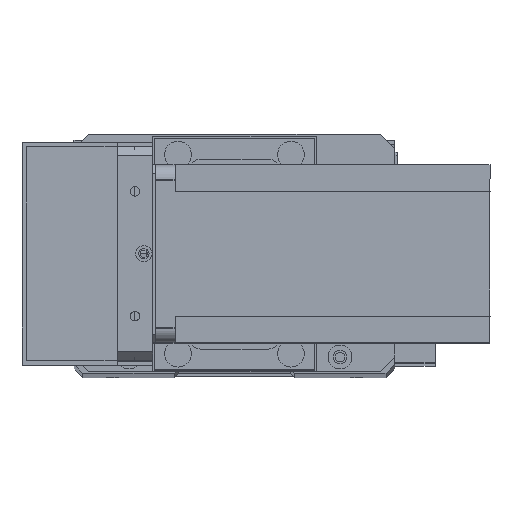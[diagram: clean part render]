
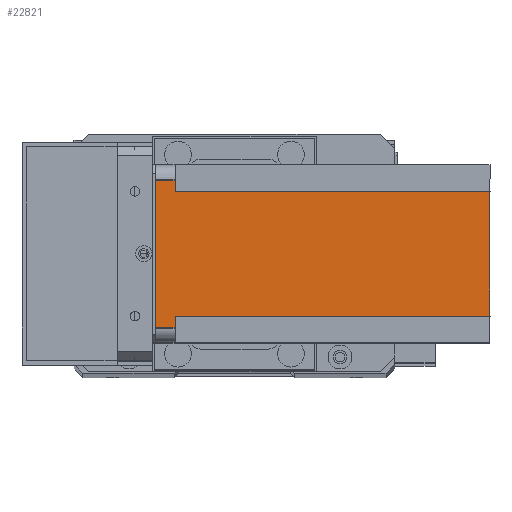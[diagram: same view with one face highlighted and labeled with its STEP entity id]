
A CAD part, top view. The second image highlights one B-rep face of the part: STEP entity #22821.
In plain terms, the highlighted planar face has unit normal (0, 0, 1) as drawn and (1, 0, 0) by its records, which use the part's own axes.
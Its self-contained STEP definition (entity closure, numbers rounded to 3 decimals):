
#467 = FACE_OUTER_BOUND ( 'NONE', #1482, .T. ) ;
#514 = AXIS2_PLACEMENT_3D ( 'NONE', #8757, #29573, #15688 ) ;
#717 = EDGE_CURVE ( 'NONE', #7862, #927, #17634, .T. ) ;
#927 = VERTEX_POINT ( 'NONE', #16353 ) ;
#1322 = LINE ( 'NONE', #12981, #6753 ) ;
#1482 = EDGE_LOOP ( 'NONE', ( #12048, #15155, #25440, #16023, #13905, #7969, #17080, #5695 ) ) ;
#3879 = EDGE_CURVE ( 'NONE', #11777, #14912, #18695, .T. ) ;
#3934 = EDGE_CURVE ( 'NONE', #11777, #18289, #4987, .T. ) ;
#4185 = LINE ( 'NONE', #7992, #16459 ) ;
#4521 = EDGE_CURVE ( 'NONE', #11489, #28545, #1322, .T. ) ;
#4788 = CARTESIAN_POINT ( 'NONE',  ( 60., 5., -6.5 ) ) ;
#4842 = EDGE_CURVE ( 'NONE', #28545, #14912, #4185, .T. ) ;
#4987 = LINE ( 'NONE', #21518, #16520 ) ;
#5695 = ORIENTED_EDGE ( 'NONE', *, *, #4842, .F. ) ;
#6441 = CARTESIAN_POINT ( 'NONE',  ( 60., 5., -112.5 ) ) ;
#6479 = DIRECTION ( 'NONE',  ( 0., 0., 1. ) ) ;
#6753 = VECTOR ( 'NONE', #12817, 1000. ) ;
#7862 = VERTEX_POINT ( 'NONE', #28120 ) ;
#7969 = ORIENTED_EDGE ( 'NONE', *, *, #3934, .F. ) ;
#7992 = CARTESIAN_POINT ( 'NONE',  ( 60., 51., -112.5 ) ) ;
#8091 = DIRECTION ( 'NONE',  ( 0., 0., -1. ) ) ;
#8757 = CARTESIAN_POINT ( 'NONE',  ( 60., 0., -112.5 ) ) ;
#8955 = VERTEX_POINT ( 'NONE', #4788 ) ;
#9200 = CARTESIAN_POINT ( 'NONE',  ( 60., 51., -112.5 ) ) ;
#10143 = EDGE_CURVE ( 'NONE', #18289, #8955, #13428, .T. ) ;
#11082 = DIRECTION ( 'NONE',  ( 0., 0., -1. ) ) ;
#11489 = VERTEX_POINT ( 'NONE', #25852 ) ;
#11777 = VERTEX_POINT ( 'NONE', #22180 ) ;
#12048 = ORIENTED_EDGE ( 'NONE', *, *, #4521, .F. ) ;
#12693 = VECTOR ( 'NONE', #25535, 1000. ) ;
#12817 = DIRECTION ( 'NONE',  ( 0., -1., 0. ) ) ;
#12981 = CARTESIAN_POINT ( 'NONE',  ( 60., 60., -6.5 ) ) ;
#13428 = LINE ( 'NONE', #18520, #12693 ) ;
#13471 = VECTOR ( 'NONE', #6479, 1000. ) ;
#13905 = ORIENTED_EDGE ( 'NONE', *, *, #10143, .F. ) ;
#14912 = VERTEX_POINT ( 'NONE', #9200 ) ;
#15155 = ORIENTED_EDGE ( 'NONE', *, *, #23453, .T. ) ;
#15688 = DIRECTION ( 'NONE',  ( 0., 1., 0. ) ) ;
#16023 = ORIENTED_EDGE ( 'NONE', *, *, #16628, .T. ) ;
#16353 = CARTESIAN_POINT ( 'NONE',  ( 60., 55., 0. ) ) ;
#16459 = VECTOR ( 'NONE', #8091, 1000. ) ;
#16520 = VECTOR ( 'NONE', #21433, 1000. ) ;
#16628 = EDGE_CURVE ( 'NONE', #7862, #8955, #22337, .T. ) ;
#17080 = ORIENTED_EDGE ( 'NONE', *, *, #3879, .T. ) ;
#17388 = CARTESIAN_POINT ( 'NONE',  ( 60., 51., -6.5 ) ) ;
#17634 = LINE ( 'NONE', #21237, #29990 ) ;
#18289 = VERTEX_POINT ( 'NONE', #26212 ) ;
#18520 = CARTESIAN_POINT ( 'NONE',  ( 60., 0., -6.5 ) ) ;
#18695 = LINE ( 'NONE', #22650, #20151 ) ;
#20151 = VECTOR ( 'NONE', #22624, 1000. ) ;
#21237 = CARTESIAN_POINT ( 'NONE',  ( 60., 0., 0. ) ) ;
#21433 = DIRECTION ( 'NONE',  ( 0., 0., 1. ) ) ;
#21518 = CARTESIAN_POINT ( 'NONE',  ( 60., 9., -112.5 ) ) ;
#22180 = CARTESIAN_POINT ( 'NONE',  ( 60., 9., -112.5 ) ) ;
#22337 = LINE ( 'NONE', #6441, #23820 ) ;
#22624 = DIRECTION ( 'NONE',  ( 0., 1., 0. ) ) ;
#22650 = CARTESIAN_POINT ( 'NONE',  ( 60., 0., -112.5 ) ) ;
#22821 = ADVANCED_FACE ( 'NONE', ( #467 ), #27262, .T. ) ;
#23453 = EDGE_CURVE ( 'NONE', #11489, #927, #26505, .T. ) ;
#23585 = DIRECTION ( 'NONE',  ( 0., 1., 0. ) ) ;
#23820 = VECTOR ( 'NONE', #11082, 1000. ) ;
#25440 = ORIENTED_EDGE ( 'NONE', *, *, #717, .F. ) ;
#25535 = DIRECTION ( 'NONE',  ( 0., -1., 0. ) ) ;
#25852 = CARTESIAN_POINT ( 'NONE',  ( 60., 55., -6.5 ) ) ;
#26212 = CARTESIAN_POINT ( 'NONE',  ( 60., 9., -6.5 ) ) ;
#26505 = LINE ( 'NONE', #29538, #13471 ) ;
#27262 = PLANE ( 'NONE',  #514 ) ;
#28120 = CARTESIAN_POINT ( 'NONE',  ( 60., 5., 0. ) ) ;
#28545 = VERTEX_POINT ( 'NONE', #17388 ) ;
#29538 = CARTESIAN_POINT ( 'NONE',  ( 60., 55., -112.5 ) ) ;
#29573 = DIRECTION ( 'NONE',  ( 1., 0., 0. ) ) ;
#29990 = VECTOR ( 'NONE', #23585, 1000. ) ;
